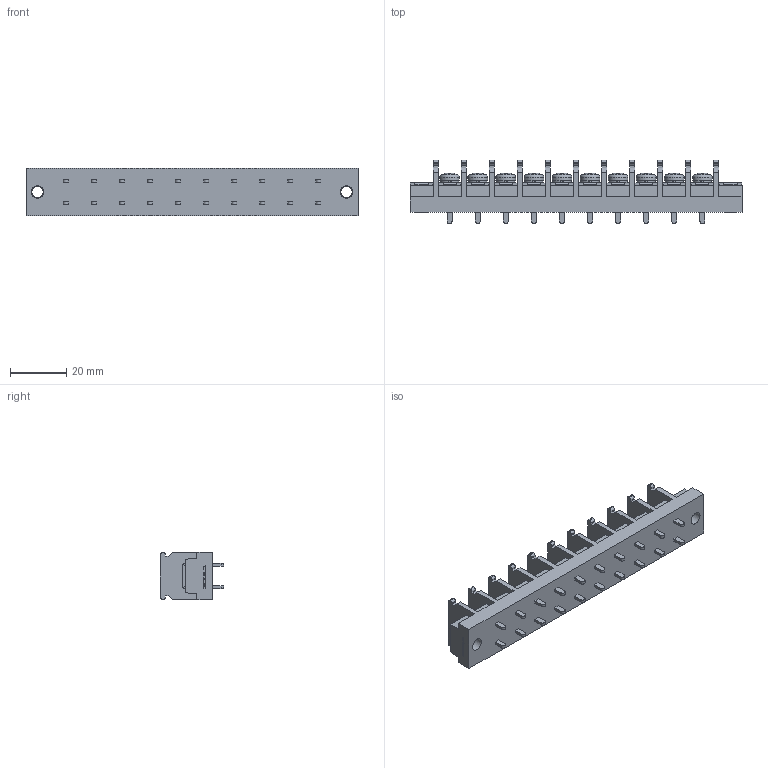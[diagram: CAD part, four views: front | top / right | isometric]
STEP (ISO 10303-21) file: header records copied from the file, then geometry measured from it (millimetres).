
FILE_DESCRIPTION(/* description */ ('Alibre Inc.'),/* implementation_level */ '2;1');
FILE_NAME(/* name */ 'export0',/* time_stamp */ '2015-10-17T15:50:56+09:00',/* author */ (''),/* organization */ (''),/* preprocessor_version */ 'ST-DEVELOPER v14',/* originating_system */ 'Alibre',/* authorisation */ '');
FILE_SCHEMA (('CONFIG_CONTROL_DESIGN'));
Length unit declared in the file: centimetre
Products named in the file (1): ID_1
Bounding box: 118.2 x 22.5 x 17 mm (x, y, z)
Volume: 21704.9 mm3; surface area: 12767.1 mm2
Topology: 1 solids, 17 shells, 1164 faces, 3168 edges, 2102 vertices
Faces by surface type: plane 868, cylinder 122, bspline 104, cone 40, torus 20, sphere 10
Full cylindrical faces by diameter (mm): 4 x12, 4.5 x2, 6.5 x10, 7 x10
Entity records: 35450 total; most frequent: CARTESIAN_POINT 7568, ORIENTED_EDGE 6188, DIRECTION 4584, EDGE_CURVE 3094, VECTOR 2264, LINE 2264, VERTEX_POINT 2072, AXIS2_PLACEMENT_3D 1584
